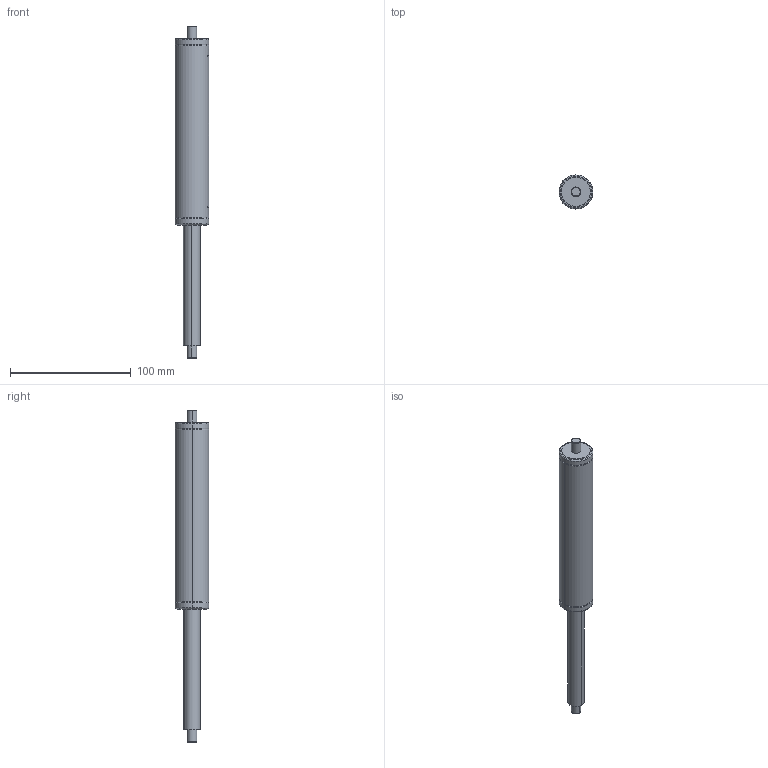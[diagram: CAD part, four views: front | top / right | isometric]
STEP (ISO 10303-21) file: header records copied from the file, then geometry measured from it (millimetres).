
FILE_DESCRIPTION (( 'STEP AP214' ), '1' );
FILE_NAME ('8100255050.STEP', '2018-03-12T11:19:07', ( '' ), ( '' ), 'SwSTEP 2.0', 'SolidWorks 2017', '' );
FILE_SCHEMA (( 'AUTOMOTIVE_DESIGN' ));
Length unit declared in the file: millimetre
Products named in the file (3): 8100255050; 8100255050_Veer; 8100255050_Cylinder
Assembly tree (2 placements, depth 2):
  8100255050
    8100255050_Cylinder
    8100255050_Veer
Bounding box: 28.1 x 28 x 275 mm (x, y, z)
Volume: 113294.2 mm3; surface area: 20534.4 mm2
Topology: 2 solids, 2 shells, 260 faces, 689 edges, 450 vertices
Faces by surface type: bspline 171, plane 35, cylinder 30, torus 20, cone 4
Entity records: 20982 total; most frequent: CARTESIAN_POINT 15358, ORIENTED_EDGE 1378, EDGE_CURVE 689, B_SPLINE_CURVE_WITH_KNOTS 538, VERTEX_POINT 450, DIRECTION 425, EDGE_LOOP 277, FACE_OUTER_BOUND 260
